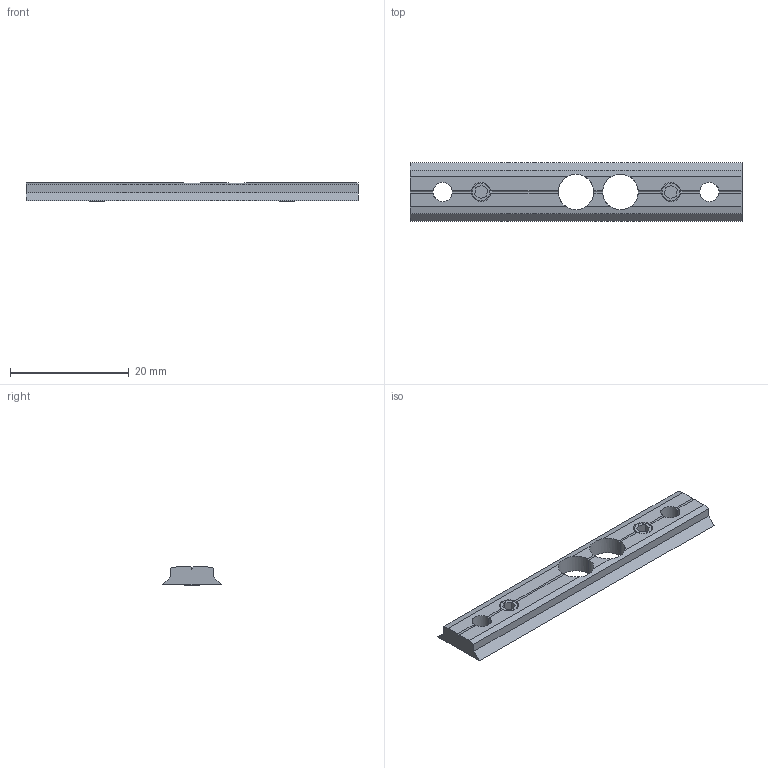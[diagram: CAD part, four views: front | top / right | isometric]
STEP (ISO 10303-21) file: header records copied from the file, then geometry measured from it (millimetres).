
FILE_DESCRIPTION(('STEP AP214'),'1');
FILE_NAME('EGT200_1705139_NUTENSTEIN.CATPart.stp','2015-09-14T13:12:50',('3D-Tool'),(' '),'Spatial InterOp 3D',' ',' ');
FILE_SCHEMA(('automotive_design'));
Length unit declared in the file: millimetre
Products named in the file (3): EGT200_1705139_NUTENSTEIN|EGT200_NUTENSTEIN|Bohrbearbeitung; EGT200_1705139_NUTENSTEIN|EGT_200_GEWINDESTIFT_M4x3.1|Pocket.2; EGT200_1705139_NUTENSTEIN|EGT_200_GEWINDESTIFT_M4x3.2|Translate.1
Bounding box: 56 x 9.9 x 3.1 mm (x, y, z)
Volume: 1084.5 mm3; surface area: 1598.1 mm2
Topology: 3 solids, 3 shells, 87 faces, 235 edges, 150 vertices
Faces by surface type: plane 47, cylinder 28, cone 12
Entity records: 3624 total; most frequent: CARTESIAN_POINT 639, ORIENTED_EDGE 470, DIRECTION 463, EDGE_CURVE 235, AXIS2_PLACEMENT_3D 166, VERTEX_POINT 150, LINE 131, VECTOR 131
